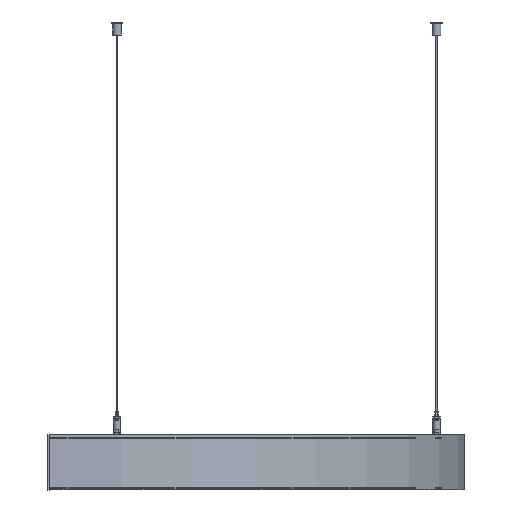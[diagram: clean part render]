
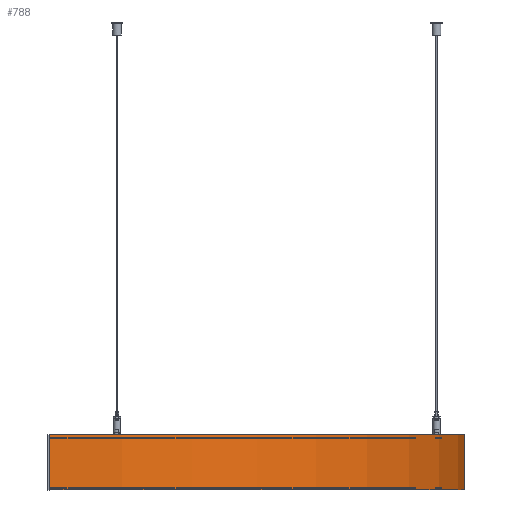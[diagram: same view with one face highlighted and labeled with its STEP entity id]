
A CAD part, front view. The second image highlights one B-rep face of the part: STEP entity #788.
In plain terms, the highlighted cylindrical face has radius 525 mm (diameter 1050 mm), a partial arc.
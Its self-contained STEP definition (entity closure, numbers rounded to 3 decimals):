
#788=ADVANCED_FACE('',(#899),#901,.T.);
#899=FACE_BOUND('',#900,.T.);
#900=EDGE_LOOP('',(#1493,#1494,#1495,#1496));
#901=CYLINDRICAL_SURFACE('',#902,525.);
#902=AXIS2_PLACEMENT_3D('',#903,#904,#905);
#903=CARTESIAN_POINT('',(0.,0.,0.));
#904=DIRECTION('',(0.,0.,1.));
#905=DIRECTION('',(0.,-1.,0.));
#1493=ORIENTED_EDGE('',*,*,#1768,.T.);
#1494=ORIENTED_EDGE('',*,*,#1769,.T.);
#1495=ORIENTED_EDGE('',*,*,#1759,.F.);
#1496=ORIENTED_EDGE('',*,*,#1767,.F.);
#1759=EDGE_CURVE('',#1899,#1901,#1902,.T.);
#1767=EDGE_CURVE('',#1913,#1899,#1915,.T.);
#1768=EDGE_CURVE('',#1913,#1916,#1917,.T.);
#1769=EDGE_CURVE('',#1916,#1901,#1918,.T.);
#1899=VERTEX_POINT('',#2144);
#1901=VERTEX_POINT('',#2148);
#1902=CIRCLE('',#2149,525.);
#1913=VERTEX_POINT('',#2176);
#1915=LINE('',#2180,#2181);
#1916=VERTEX_POINT('',#2183);
#1917=CIRCLE('',#2184,525.);
#1918=LINE('',#2188,#2189);
#2144=CARTESIAN_POINT('',(0.,-525.,70.));
#2148=CARTESIAN_POINT('',(0.,525.,70.));
#2149=AXIS2_PLACEMENT_3D('',#2150,#2151,#2152);
#2150=CARTESIAN_POINT('',(0.,0.,70.));
#2151=DIRECTION('',(0.,0.,1.));
#2152=DIRECTION('',(0.,-1.,0.));
#2176=CARTESIAN_POINT('',(0.,-525.,0.));
#2180=CARTESIAN_POINT('',(0.,-525.,0.));
#2181=VECTOR('',#2182,1.);
#2182=DIRECTION('',(0.,0.,1.));
#2183=CARTESIAN_POINT('',(0.,525.,0.));
#2184=AXIS2_PLACEMENT_3D('',#2185,#2186,#2187);
#2185=CARTESIAN_POINT('',(0.,0.,0.));
#2186=DIRECTION('',(0.,0.,1.));
#2187=DIRECTION('',(0.,-1.,0.));
#2188=CARTESIAN_POINT('',(0.,525.,0.));
#2189=VECTOR('',#2190,1.);
#2190=DIRECTION('',(0.,0.,1.));
